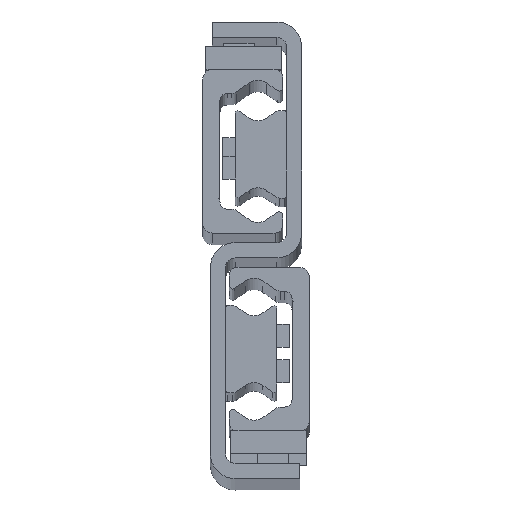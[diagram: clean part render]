
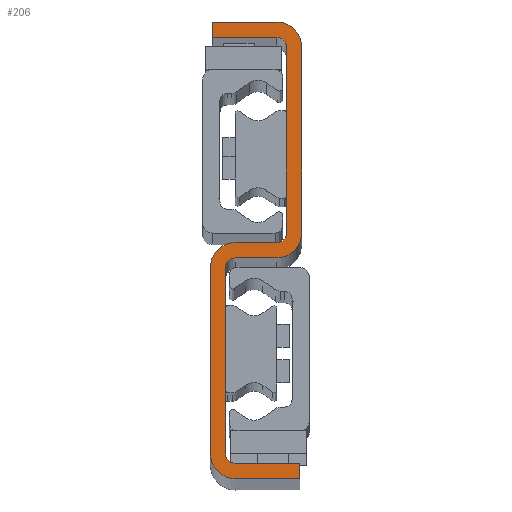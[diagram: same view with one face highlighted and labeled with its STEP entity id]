
A CAD part, top view. The second image highlights one B-rep face of the part: STEP entity #206.
In plain terms, the highlighted planar face has unit normal (0, 0, 1).
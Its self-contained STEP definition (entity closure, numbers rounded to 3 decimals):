
#206=ADVANCED_FACE('',(#753),#754,.T.);
#753=FACE_OUTER_BOUND('',#1655,.T.);
#754=PLANE('',#1656);
#1655=EDGE_LOOP('',(#3277,#3278,#3279,#3280,#3281,#3282,#3283,#3284,#3285,#3286,#3287,#3288,#3289,#3290,#3291,#3292,#3293,#3294,#3295,#3296));
#1656=AXIS2_PLACEMENT_3D('',#3297,#3298,#3299);
#3277=ORIENTED_EDGE('',*,*,#5793,.F.);
#3278=ORIENTED_EDGE('',*,*,#5851,.F.);
#3279=ORIENTED_EDGE('',*,*,#5848,.F.);
#3280=ORIENTED_EDGE('',*,*,#5845,.F.);
#3281=ORIENTED_EDGE('',*,*,#5842,.F.);
#3282=ORIENTED_EDGE('',*,*,#5839,.F.);
#3283=ORIENTED_EDGE('',*,*,#5836,.F.);
#3284=ORIENTED_EDGE('',*,*,#5833,.F.);
#3285=ORIENTED_EDGE('',*,*,#5830,.F.);
#3286=ORIENTED_EDGE('',*,*,#5827,.F.);
#3287=ORIENTED_EDGE('',*,*,#5824,.F.);
#3288=ORIENTED_EDGE('',*,*,#5821,.F.);
#3289=ORIENTED_EDGE('',*,*,#5818,.F.);
#3290=ORIENTED_EDGE('',*,*,#5815,.F.);
#3291=ORIENTED_EDGE('',*,*,#5812,.F.);
#3292=ORIENTED_EDGE('',*,*,#5809,.F.);
#3293=ORIENTED_EDGE('',*,*,#5806,.F.);
#3294=ORIENTED_EDGE('',*,*,#5803,.F.);
#3295=ORIENTED_EDGE('',*,*,#5800,.F.);
#3296=ORIENTED_EDGE('',*,*,#5797,.F.);
#3297=CARTESIAN_POINT('',(-14.,26.,1730.0));
#3298=DIRECTION('',(0.0,0.0,1.0));
#3299=DIRECTION('',(1.0,0.0,0.0));
#5793=EDGE_CURVE('',#7011,#7012,#7013,.T.);
#5797=EDGE_CURVE('',#7012,#7019,#7020,.T.);
#5800=EDGE_CURVE('',#7019,#7024,#7025,.T.);
#5803=EDGE_CURVE('',#7024,#7029,#7030,.T.);
#5806=EDGE_CURVE('',#7029,#7034,#7035,.T.);
#5809=EDGE_CURVE('',#7034,#7039,#7040,.T.);
#5812=EDGE_CURVE('',#7039,#7044,#7045,.T.);
#5815=EDGE_CURVE('',#7044,#7049,#7050,.T.);
#5818=EDGE_CURVE('',#7049,#7054,#7055,.T.);
#5821=EDGE_CURVE('',#7054,#7059,#7060,.T.);
#5824=EDGE_CURVE('',#7059,#7064,#7065,.T.);
#5827=EDGE_CURVE('',#7064,#7069,#7070,.T.);
#5830=EDGE_CURVE('',#7069,#7074,#7075,.T.);
#5833=EDGE_CURVE('',#7074,#7079,#7080,.T.);
#5836=EDGE_CURVE('',#7079,#7084,#7085,.T.);
#5839=EDGE_CURVE('',#7084,#7089,#7090,.T.);
#5842=EDGE_CURVE('',#7089,#7094,#7095,.T.);
#5845=EDGE_CURVE('',#7094,#7099,#7100,.T.);
#5848=EDGE_CURVE('',#7099,#7104,#7105,.T.);
#5851=EDGE_CURVE('',#7104,#7011,#7109,.T.);
#7011=VERTEX_POINT('',#8901);
#7012=VERTEX_POINT('',#8902);
#7013=LINE('',#8903,#8904);
#7019=VERTEX_POINT('',#8913);
#7020=CIRCLE('',#8914,2.5);
#7024=VERTEX_POINT('',#8919);
#7025=LINE('',#8920,#8921);
#7029=VERTEX_POINT('',#8927);
#7030=CIRCLE('',#8928,2.5);
#7034=VERTEX_POINT('',#8933);
#7035=LINE('',#8934,#8935);
#7039=VERTEX_POINT('',#8941);
#7040=LINE('',#8942,#8943);
#7044=VERTEX_POINT('',#8949);
#7045=LINE('',#8950,#8951);
#7049=VERTEX_POINT('',#8957);
#7050=CIRCLE('',#8958,6.5);
#7054=VERTEX_POINT('',#8963);
#7055=LINE('',#8964,#8965);
#7059=VERTEX_POINT('',#8971);
#7060=CIRCLE('',#8972,6.5);
#7064=VERTEX_POINT('',#8977);
#7065=LINE('',#8978,#8979);
#7069=VERTEX_POINT('',#8985);
#7070=CIRCLE('',#8986,2.5);
#7074=VERTEX_POINT('',#8991);
#7075=LINE('',#8992,#8993);
#7079=VERTEX_POINT('',#8999);
#7080=CIRCLE('',#9000,2.5);
#7084=VERTEX_POINT('',#9005);
#7085=LINE('',#9006,#9007);
#7089=VERTEX_POINT('',#9013);
#7090=LINE('',#9014,#9015);
#7094=VERTEX_POINT('',#9021);
#7095=LINE('',#9022,#9023);
#7099=VERTEX_POINT('',#9029);
#7100=CIRCLE('',#9030,6.5);
#7104=VERTEX_POINT('',#9035);
#7105=LINE('',#9036,#9037);
#7109=CIRCLE('',#9043,6.5);
#8901=CARTESIAN_POINT('',(-8.5,24.,1730.0));
#8902=CARTESIAN_POINT('',(-19.5,24.,1730.0));
#8903=CARTESIAN_POINT('',(-8.5,24.,1730.0));
#8904=VECTOR('',#10977,1.0);
#8913=CARTESIAN_POINT('',(-22.,21.5,1730.0));
#8914=AXIS2_PLACEMENT_3D('',#10981,#10982,#10983);
#8919=CARTESIAN_POINT('',(-22.,-27.5,1730.0));
#8920=CARTESIAN_POINT('',(-22.,-27.5,1730.0));
#8921=VECTOR('',#10988,1.0);
#8927=CARTESIAN_POINT('',(-19.5,-30.,1730.0));
#8928=AXIS2_PLACEMENT_3D('',#10991,#10992,#10993);
#8933=CARTESIAN_POINT('',(-2.5,-30.,1730.0));
#8934=CARTESIAN_POINT('',(-19.5,-30.,1730.0));
#8935=VECTOR('',#10998,1.0);
#8941=CARTESIAN_POINT('',(-2.5,-34.,1730.0));
#8942=CARTESIAN_POINT('',(-2.5,-34.,1730.0));
#8943=VECTOR('',#11001,1.0);
#8949=CARTESIAN_POINT('',(-19.5,-34.,1730.0));
#8950=CARTESIAN_POINT('',(-19.5,-34.,1730.0));
#8951=VECTOR('',#11004,1.0);
#8957=CARTESIAN_POINT('',(-26.,-27.5,1730.0));
#8958=AXIS2_PLACEMENT_3D('',#11007,#11008,#11009);
#8963=CARTESIAN_POINT('',(-26.,21.5,1730.0));
#8964=CARTESIAN_POINT('',(-26.,21.5,1730.0));
#8965=VECTOR('',#11014,1.0);
#8971=CARTESIAN_POINT('',(-19.5,28.,1730.0));
#8972=AXIS2_PLACEMENT_3D('',#11017,#11018,#11019);
#8977=CARTESIAN_POINT('',(-8.5,28.,1730.0));
#8978=CARTESIAN_POINT('',(-8.5,28.,1730.0));
#8979=VECTOR('',#11024,1.0);
#8985=CARTESIAN_POINT('',(-6.,30.5,1730.0));
#8986=AXIS2_PLACEMENT_3D('',#11027,#11028,#11029);
#8991=CARTESIAN_POINT('',(-6.,79.5,1730.0));
#8992=CARTESIAN_POINT('',(-6.,79.5,1730.0));
#8993=VECTOR('',#11034,1.0);
#8999=CARTESIAN_POINT('',(-8.5,82.,1730.0));
#9000=AXIS2_PLACEMENT_3D('',#11037,#11038,#11039);
#9005=CARTESIAN_POINT('',(-25.5,82.,1730.0));
#9006=CARTESIAN_POINT('',(-25.5,82.,1730.0));
#9007=VECTOR('',#11044,1.0);
#9013=CARTESIAN_POINT('',(-25.5,86.,1730.0));
#9014=CARTESIAN_POINT('',(-25.5,86.,1730.0));
#9015=VECTOR('',#11047,1.0);
#9021=CARTESIAN_POINT('',(-8.5,86.,1730.0));
#9022=CARTESIAN_POINT('',(-25.5,86.,1730.0));
#9023=VECTOR('',#11050,1.0);
#9029=CARTESIAN_POINT('',(-2.,79.5,1730.0));
#9030=AXIS2_PLACEMENT_3D('',#11053,#11054,#11055);
#9035=CARTESIAN_POINT('',(-2.,30.5,1730.0));
#9036=CARTESIAN_POINT('',(-2.,79.5,1730.0));
#9037=VECTOR('',#11060,1.0);
#9043=AXIS2_PLACEMENT_3D('',#11063,#11064,#11065);
#10977=DIRECTION('',(-1.0,0.,0.0));
#10981=CARTESIAN_POINT('',(-19.5,21.5,1730.0));
#10982=DIRECTION('',(0.0,0.0,1.0));
#10983=DIRECTION('',(1.0,0.0,0.0));
#10988=DIRECTION('',(-0.0,-1.0,-0.0));
#10991=CARTESIAN_POINT('',(-19.5,-27.5,1730.0));
#10992=DIRECTION('',(0.0,0.0,1.0));
#10993=DIRECTION('',(1.0,0.0,0.0));
#10998=DIRECTION('',(1.,0.,0.0));
#11001=DIRECTION('',(-0.0,-1.0,-0.0));
#11004=DIRECTION('',(-1.,0.,-0.0));
#11007=CARTESIAN_POINT('',(-19.5,-27.5,1730.0));
#11008=DIRECTION('',(0.0,0.0,-1.0));
#11009=DIRECTION('',(1.0,0.0,0.0));
#11014=DIRECTION('',(0.0,1.0,0.0));
#11017=CARTESIAN_POINT('',(-19.5,21.5,1730.0));
#11018=DIRECTION('',(0.0,0.0,-1.0));
#11019=DIRECTION('',(1.0,0.0,0.0));
#11024=DIRECTION('',(1.0,0.,0.0));
#11027=CARTESIAN_POINT('',(-8.5,30.5,1730.0));
#11028=DIRECTION('',(0.0,0.0,1.0));
#11029=DIRECTION('',(1.0,0.0,0.0));
#11034=DIRECTION('',(0.0,1.0,0.0));
#11037=CARTESIAN_POINT('',(-8.5,79.5,1730.0));
#11038=DIRECTION('',(0.0,0.0,1.0));
#11039=DIRECTION('',(1.0,0.0,0.0));
#11044=DIRECTION('',(-1.,0.,0.0));
#11047=DIRECTION('',(0.0,1.0,0.0));
#11050=DIRECTION('',(1.,0.,0.0));
#11053=CARTESIAN_POINT('',(-8.5,79.5,1730.0));
#11054=DIRECTION('',(0.0,0.0,-1.0));
#11055=DIRECTION('',(1.0,0.0,0.0));
#11060=DIRECTION('',(0.,-1.0,0.0));
#11063=CARTESIAN_POINT('',(-8.5,30.5,1730.0));
#11064=DIRECTION('',(0.0,0.0,-1.0));
#11065=DIRECTION('',(1.0,0.0,0.0));
